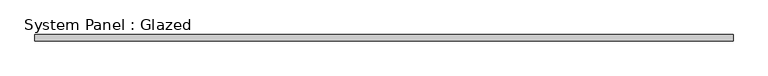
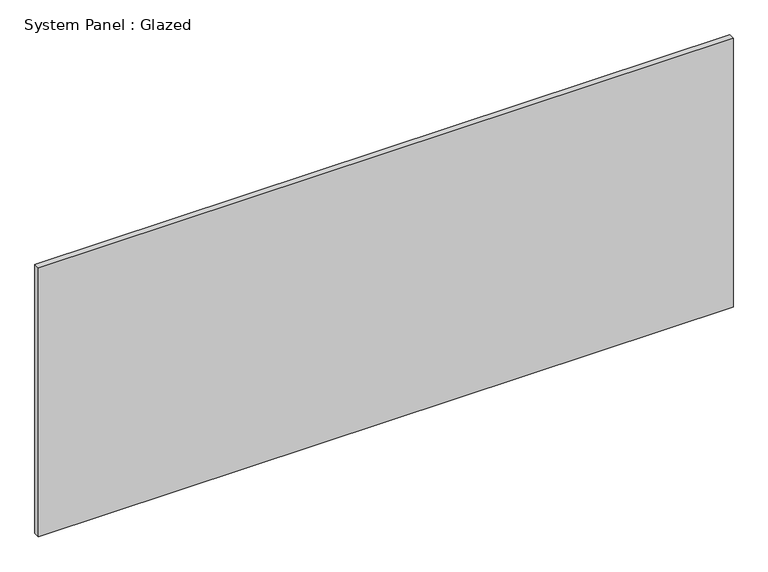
"""IFC4 building model written with IfcOpenShell, lengths in millimetres: plate geometry, System Panel : Glazed."""

from ifc_helpers import new_model, si_unit, origin, origin_with_axes, place, context, project, spatial, polyline, outline, extrude, source, transform, mapped, element, save


def system_panel_glazed_18d93cd4(model_context):
    return source(origin(), model_context, "Body", "SweptSolid", [
        extrude(outline(polyline([(1404.7802482, 24.5), (-1404.7802482, 24.5), (-1404.7802482, 49.5), (1404.7802482, 49.5), (1404.7802482, 24.5)])), origin_with_axes(), (0.0, 0.0, 1.0), 1150.0),
    ])


if __name__ == "__main__":
    model = new_model("IFC4")
    model_context = context("Model", 3, world=origin())
    ifc_project = project(units=[si_unit("LENGTHUNIT", "METRE", prefix="MILLI")], contexts=[model_context])
    site = spatial("IfcSite", under=ifc_project)
    building = spatial("IfcBuilding", under=site)
    placement = place(None, origin())
    system_panel_glazed_shape = system_panel_glazed_18d93cd4(model_context)
    element("IfcPlate", 1, ObjectType="System Panel : Glazed", at=placement, inside=building, context=model_context, shape_type="MappedRepresentation", body=[
        mapped(system_panel_glazed_shape, transform((0.0, 0.0, 0.0), x_axis=(1.0, 0.0, 0.0), y_axis=(0.0, 1.0, 0.0), z_axis=(0.0, 0.0, 1.0))),
    ])
    save(model, "model.ifc")
